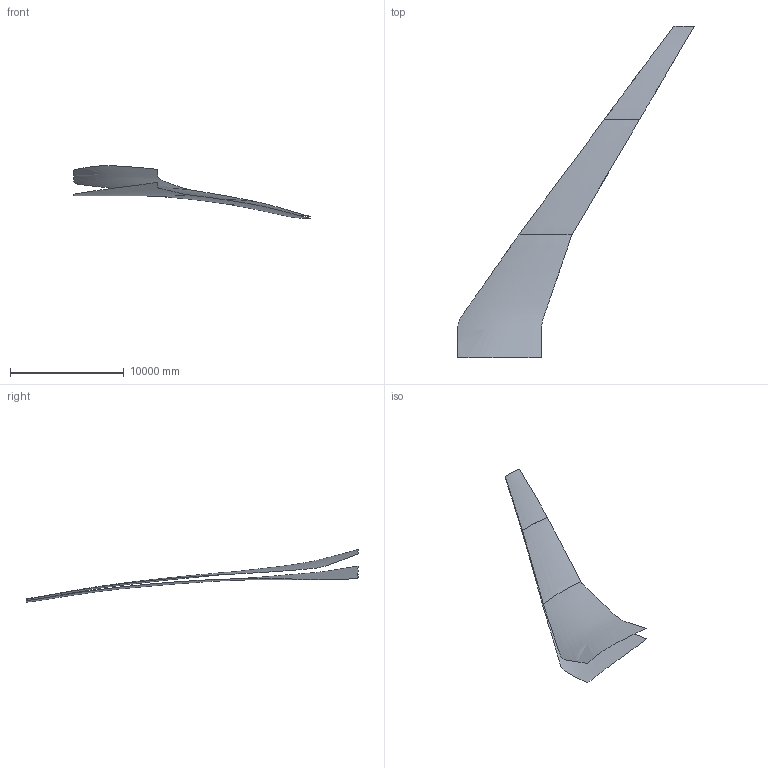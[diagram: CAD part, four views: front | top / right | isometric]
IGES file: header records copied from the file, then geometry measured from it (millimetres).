
Global section: file name: E:\temp\CRM_skins.igs; native system: NX V8.5; preprocessor: SIEMENS PLM Software NX 8.5; date: 20140115.094702; units: inch
Bounding box: 20837.22 x 29241.83 x 4628.68 mm (x, y, z)
Surface area: 263345674.5 mm2 (no closed solid volume)
Topology: 0 solids, 0 shells, 6 faces, 185 edges, 185 vertices
Faces by surface type: bspline 6
